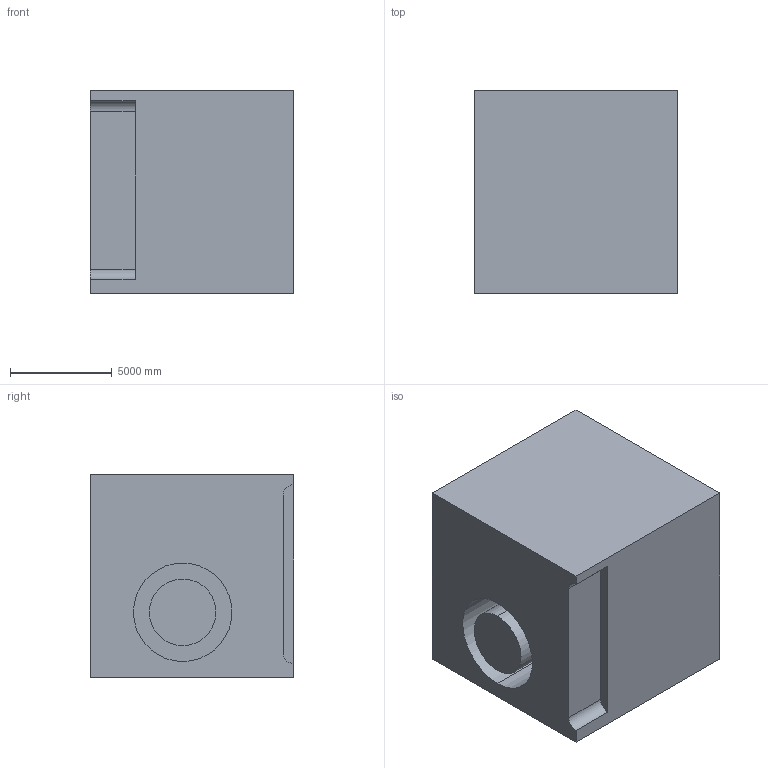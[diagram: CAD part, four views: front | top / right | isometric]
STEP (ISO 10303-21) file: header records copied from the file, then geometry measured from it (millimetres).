
FILE_DESCRIPTION (( 'STEP AP203' ), '1' );
FILE_NAME ('14.STEP', '2022-07-28T13:24:30', ( 'user' ), ( '' ), 'SwSTEP 2.0', 'SolidWorks 2021', '' );
FILE_SCHEMA (( 'CONFIG_CONTROL_DESIGN' ));
Length unit declared in the file: centimetre
Products named in the file (1): 14
Bounding box: 10000 x 10000 x 10000 mm (x, y, z)
Volume: 942438542958.8 mm3; surface area: 723018973.9 mm2
Topology: 1 solids, 1 shells, 16 faces, 36 edges, 24 vertices
Faces by surface type: plane 10, cylinder 6
Entity records: 529 total; most frequent: DIRECTION 82, CARTESIAN_POINT 77, ORIENTED_EDGE 72, EDGE_CURVE 36, AXIS2_PLACEMENT_3D 29, LINE 24, VERTEX_POINT 24, VECTOR 24
